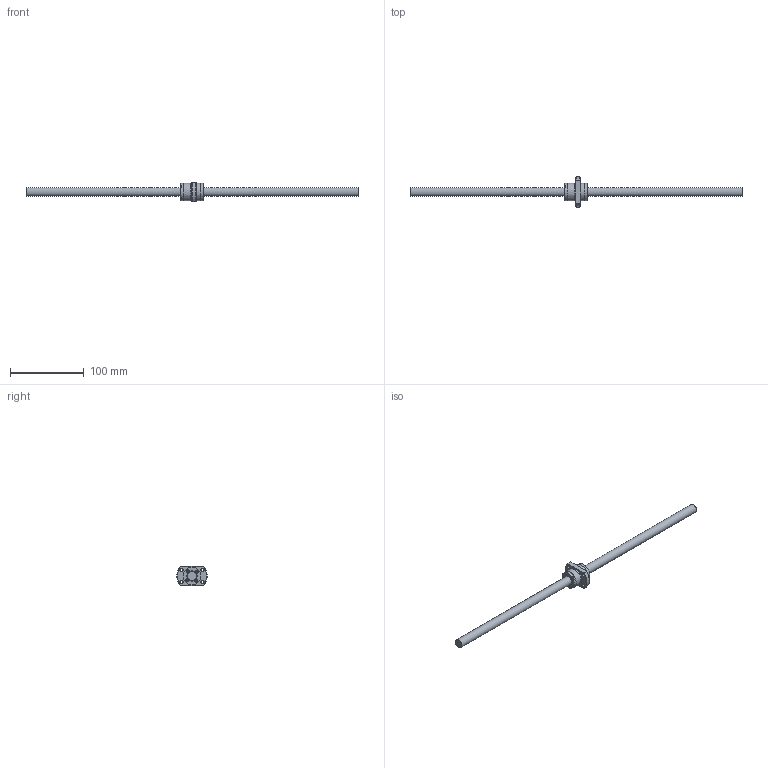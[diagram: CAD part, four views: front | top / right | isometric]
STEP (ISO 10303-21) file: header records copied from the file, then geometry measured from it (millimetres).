
FILE_DESCRIPTION( ( 'STEP AP214' ), ' ' );
FILE_NAME( 'p:/temp/worker_4/1548_2664/app_64_12015091121592545828879260eae72_000000_00_00_000000/format_0/SR1210-450R450C7(210).stp', '2015-09-11T19:59:25', ( '' ), ( '' ), ' ', 'PARTsolutions', ' ' );
FILE_SCHEMA( ( 'AUTOMOTIVE_DESIGN { 1 0 10303 214 1 1 1 1 }' ) );
Length unit declared in the file: millimetre
Products named in the file (3): SR1210-450R450C7(210); _SR1210(210)_shaft; _SR1210C7_nut
Assembly tree (2 placements, depth 2):
  SR1210-450R450C7(210)
    _SR1210(210)_shaft
    _SR1210C7_nut
Bounding box: 450 x 41 x 26 mm (x, y, z)
Volume: 63600 mm3; surface area: 22920.2 mm2
Topology: 2 solids, 2 shells, 92 faces, 221 edges, 147 vertices
Faces by surface type: plane 60, cylinder 26, cone 6
Full cylindrical faces by diameter (mm): 3.8 x4, 4.5 x4, 12 x2, 14 x1, 23.5 x3, 24 x2
Entity records: 3400 total; most frequent: CARTESIAN_POINT 465, DIRECTION 456, ORIENTED_EDGE 402, EDGE_CURVE 201, AXIS2_PLACEMENT_3D 168, VERTEX_POINT 145, EDGE_LOOP 134, LINE 120
